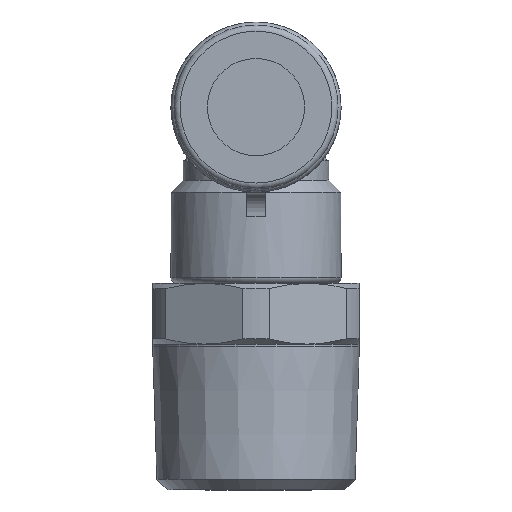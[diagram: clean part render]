
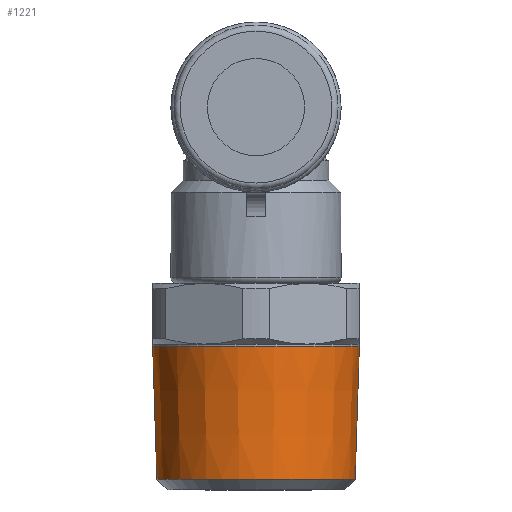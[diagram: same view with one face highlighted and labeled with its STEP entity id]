
A CAD part, left-side view. The second image highlights one B-rep face of the part: STEP entity #1221.
In plain terms, the highlighted conical face has half-angle 1.79 degrees and reference radius 8.331 mm.
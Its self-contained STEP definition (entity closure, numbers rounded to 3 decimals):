
#70=CONICAL_SURFACE($,#1348,8.331,1.79);
#106=FACE_BOUND($,#282,.T.);
#186=FACE_OUTER_BOUND($,#281,.T.);
#281=EDGE_LOOP($,(#941));
#282=EDGE_LOOP($,(#942));
#471=CIRCLE($,#1346,8.159);
#473=CIRCLE($,#1349,8.5);
#576=VERTEX_POINT($,#2098);
#578=VERTEX_POINT($,#2103);
#715=EDGE_CURVE($,#576,#576,#471,.T.);
#717=EDGE_CURVE($,#578,#578,#473,.T.);
#941=ORIENTED_EDGE($,*,*,#717,.T.);
#942=ORIENTED_EDGE($,*,*,#715,.F.);
#1221=ADVANCED_FACE($,(#186,#106),#70,.T.);
#1346=AXIS2_PLACEMENT_3D($,#2099,#1616,#1617);
#1348=AXIS2_PLACEMENT_3D($,#2102,#1620,#1621);
#1349=AXIS2_PLACEMENT_3D($,#2104,#1622,#1623);
#1616=DIRECTION('center_axis',(0.,0.,
-1.));
#1617=DIRECTION('ref_axis',(1.,0.,0.));
#1620=DIRECTION('center_axis',(0.,0.,
1.));
#1621=DIRECTION('ref_axis',(1.,0.,0.));
#1622=DIRECTION('center_axis',(0.,0.,-1.));
#1623=DIRECTION('ref_axis',(-1.,0.,0.));
#2098=CARTESIAN_POINT('',(0.,8.159,-30.6));
#2099=CARTESIAN_POINT('Origin',(0.,0.,
-30.6));
#2102=CARTESIAN_POINT('Origin',(0.,0.,
-25.1));
#2103=CARTESIAN_POINT('',(0.,8.5,-19.692));
#2104=CARTESIAN_POINT('Origin',(0.,0.,-19.692));
